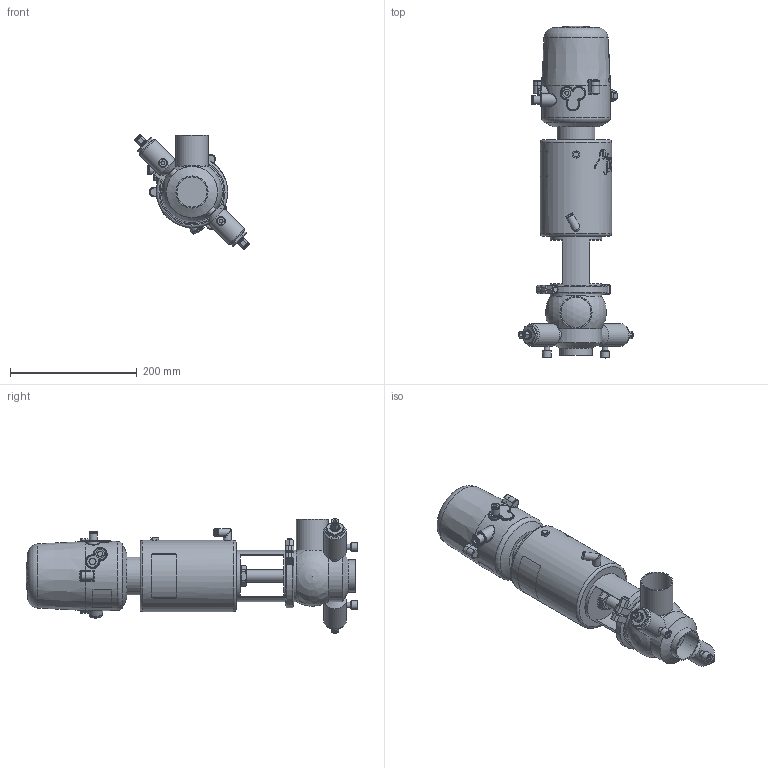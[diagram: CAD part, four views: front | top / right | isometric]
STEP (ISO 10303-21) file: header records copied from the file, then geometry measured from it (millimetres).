
FILE_DESCRIPTION (( 'STEP AP214' ), '1' );
FILE_NAME ('INNOVA D L W OD 2 T2 AS NC & C-TOP S_10.246.16.0003.STEP', '2024-08-08T09:43:26', ( '' ), ( '' ), 'SwSTEP 2.0', 'SolidWorks 2023', '' );
FILE_SCHEMA (( 'AUTOMOTIVE_DESIGN' ));
Length unit declared in the file: millimetre
Products named in the file (7): 10.246.15.0001_OD 2"; INNOVA D L W OD 2 T2 AS NC & C-TOP S_10.246.16.0003; 10.240.15.0014_T2 AS P0; 10.240.15.0017_Estàndard; 10.426.15.0001_C-TOP S - 1 EV; 10.240.15.0010_DN 050; 10.240.15.0001_DN 050
Assembly tree (6 placements, depth 2):
  INNOVA D L W OD 2 T2 AS NC & C-TOP S_10.246.16.0003
    10.246.15.0001_OD 2"
    10.240.15.0010_DN 050
    10.240.15.0014_T2 AS P0
    10.240.15.0017_Estàndard
    10.426.15.0001_C-TOP S - 1 EV
    10.240.15.0001_DN 050
Bounding box: 181.87 x 524.25 x 181.87 mm (x, y, z)
Volume: 3777816.8 mm3; surface area: 302499.2 mm2
Topology: 6 solids, 6 shells, 1195 faces, 2836 edges, 1880 vertices
Faces by surface type: plane 441, cylinder 350, cone 202, bspline 160, torus 36, sphere 6
Full cylindrical faces by diameter (mm): 0.371 x17, 0.512 x16, 0.658 x16, 0.795 x16, 0.94 x15, 1.098 x15, 1.241 x13, 1.382 x13, 1.523 x11, 1.669 x10, 2.201 x1, 4 x2, 5.5 x2, 6 x6, 6.15 x1, 8 x4, 8.5 x1, 9 x2, 10 x3, 10.5 x1, 11 x2, 12 x4, 12.5 x3, 13 x2, 13.5 x2, 14 x4, 15 x2, 16 x1, 17 x3, 20 x3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
Entity records: 60329 total; most frequent: CARTESIAN_POINT 28474, ORIENTED_EDGE 4812, DIRECTION 3997, EDGE_CURVE 2406, VERTEX_POINT 1709, EDGE_LOOP 1691, AXIS2_PLACEMENT_3D 1616, FACE_OUTER_BOUND 1426
